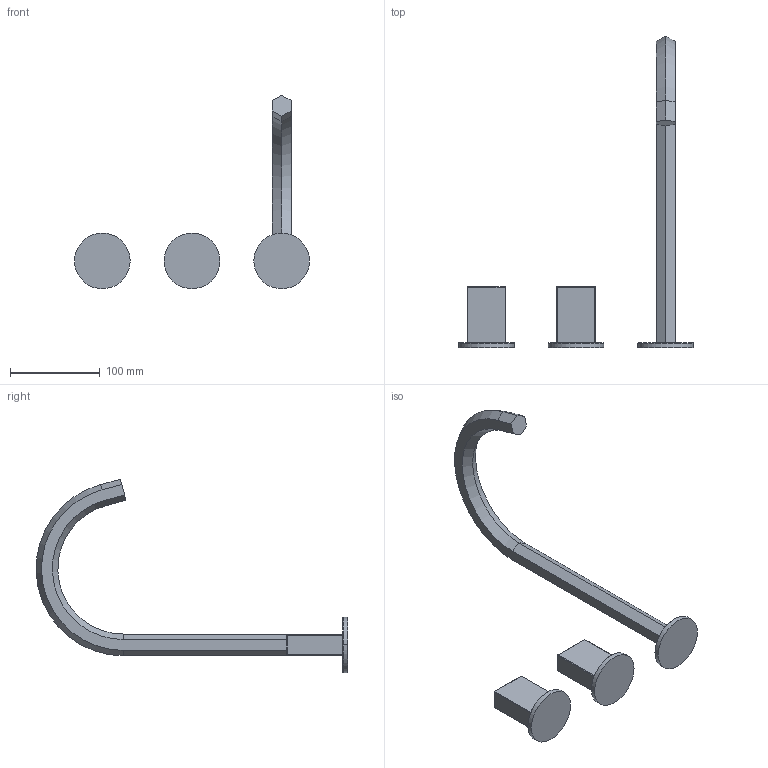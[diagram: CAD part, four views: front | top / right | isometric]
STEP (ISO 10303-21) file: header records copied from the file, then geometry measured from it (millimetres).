
FILE_DESCRIPTION((''),'2;1');
FILE_NAME('DIS_3D_N405SW_ASM','2022-07-11T09:28:57',('Elia'),(''),'CREO PARAMETRIC BY PTC INC, 2021424','CREO PARAMETRIC BY PTC INC, 2021424','');
FILE_SCHEMA(('AUTOMOTIVE_DESIGN { 1 0 10303 214 1 1 1 1 }'));
Length unit declared in the file: millimetre
Products named in the file (5): 29000N405SW00000_SW0001_1_1; 29000N405SW00000_SW0001_1_2; 29000N405SW00000_SW0001_1_3; 29000N405SW00000_SW0001_1_ASM; DIS_3D_N405SW_ASM
Assembly tree (4 placements, depth 3):
  DIS_3D_N405SW_ASM
    29000N405SW00000_SW0001_1_ASM
      29000N405SW00000_SW0001_1_1
      29000N405SW00000_SW0001_1_2
      29000N405SW00000_SW0001_1_3
Bounding box: 262 x 347.52 x 215.71 mm (x, y, z)
Volume: 362932.2 mm3; surface area: 77693.4 mm2
Topology: 3 solids, 3 shells, 92 faces, 206 edges, 126 vertices
Faces by surface type: plane 70, cylinder 12, cone 6, torus 4
Entity records: 4052 total; most frequent: DIRECTION 550, CARTESIAN_POINT 505, ORIENTED_EDGE 412, EDGE_CURVE 206, AXIS2_PLACEMENT_3D 188, VECTOR 160, LINE 160, VERTEX_POINT 126
